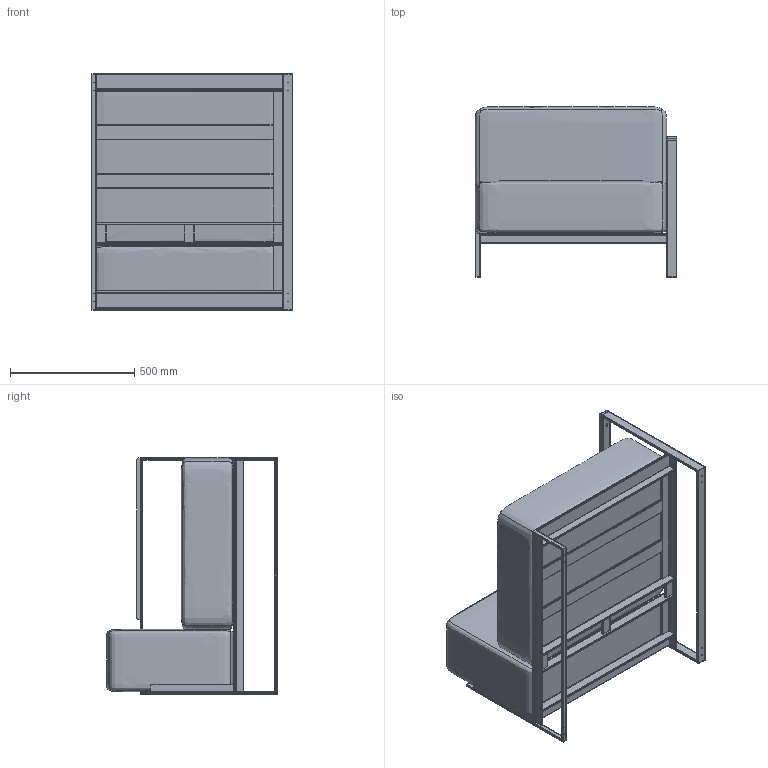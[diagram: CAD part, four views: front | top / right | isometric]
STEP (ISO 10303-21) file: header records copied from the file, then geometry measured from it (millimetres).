
FILE_DESCRIPTION(/* description */ (''),/* implementation_level */ '2;1');
FILE_NAME(/* name */ 'C:\Vault_WF\Designs\RF\Step\Moore Right.stp',/* time_stamp */ '2021-06-28T08:46:39+02:00',/* author */ ('Röshults'),/* organization */ (''),/* preprocessor_version */ 'ST-DEVELOPER v18.1',/* originating_system */ 'Autodesk Inventor 2021',/* authorisation */ '');
FILE_SCHEMA (('AUTOMOTIVE_DESIGN { 1 0 10303 214 3 1 1 }'));
Length unit declared in the file: millimetre
Products named in the file (34): Assembly1; 100759-1; 100759-2; 100755; Frame 1583823913769; Skeleton 1583823913770; CSN EN 10305-5 - 20 x 10 x 1,5  - 950; CSN EN 10305-5 - 20 x 10 x 1,5  - 175; CSN EN 10305-5 - 20 x 10 x 1,5  - 940; CSN EN 10305-5 - 20 x 10 x 1,5  - 548,5; CSN EN 10305-5 - 30 x 10 x 1,5  - 930; CSN EN 10305-5 - 30 x 10 x 1,5  - 333; CSN EN 10305-5 - 40 x 10 x 1,5  - 950; CSN EN 10305-5 - 40 x 10 x 1,5  - 550; CSN EN 10305-5 - 40 x 10 x 1,5  - 940; CSN EN 10305-5 - 40 x 10 x 1,5  - 550_1; CSN EN 10305-5 - 40 x 10 x 1,5  - 790; CSN EN 10305-5 - 40 x 10 x 1,5  - 930; CSN EN 10305-5 - 40 x 10 x 1,5  - 526; CSN EN 10305-5 - 40 x 10 x 1,5  - 750; CSN EN 10305-5 - 40 x 10 x 1,5  - 750_1; CSN EN 10305-5 - 40 x 10 x 1,5  - 750_2; CSN EN 10305-5 - 40 x 10 x 1,5  - 750_3; CSN EN 10305-5 - 40 x 10 x 1,5  - 72; CSN EN 10305-5 - 40 x 10 x 1,5  - 72_1; CSN EN 10305-5 - 40 x 10 x 1,5  - 72_2; CSN EN 10305-5 - 40 x 10 x 1,5  - 182; CSN EN 10305-5 - 60 x 10 x 1,5  - 750; CSN EN 10305-5 - 60 x 10 x 1,5  - 710; CSN EN 10305-5 - 60 x 10 x 1,5  - 710_1; CSN EN 10305-5 - 60 x 10 x 1,5  - 750_1; End Cap 20x10; End Cap 30x10; 100527
Assembly tree (33 placements, depth 4):
  Assembly1
    100759-1
    100759-2
    100755
      Frame 1583823913769
        Skeleton 1583823913770
        CSN EN 10305-5 - 20 x 10 x 1,5  - 950
        CSN EN 10305-5 - 20 x 10 x 1,5  - 175
        CSN EN 10305-5 - 20 x 10 x 1,5  - 940
        CSN EN 10305-5 - 20 x 10 x 1,5  - 548,5
        CSN EN 10305-5 - 30 x 10 x 1,5  - 930
        CSN EN 10305-5 - 30 x 10 x 1,5  - 333
        CSN EN 10305-5 - 40 x 10 x 1,5  - 950
        CSN EN 10305-5 - 40 x 10 x 1,5  - 550
        CSN EN 10305-5 - 40 x 10 x 1,5  - 940
        CSN EN 10305-5 - 40 x 10 x 1,5  - 550_1
        CSN EN 10305-5 - 40 x 10 x 1,5  - 790
        CSN EN 10305-5 - 40 x 10 x 1,5  - 930
        CSN EN 10305-5 - 40 x 10 x 1,5  - 526
        CSN EN 10305-5 - 40 x 10 x 1,5  - 750
        CSN EN 10305-5 - 40 x 10 x 1,5  - 750_1
        CSN EN 10305-5 - 40 x 10 x 1,5  - 750_2
        CSN EN 10305-5 - 40 x 10 x 1,5  - 750_3
        CSN EN 10305-5 - 40 x 10 x 1,5  - 72
        CSN EN 10305-5 - 40 x 10 x 1,5  - 72_1
        CSN EN 10305-5 - 40 x 10 x 1,5  - 72_2
        CSN EN 10305-5 - 40 x 10 x 1,5  - 182
        CSN EN 10305-5 - 60 x 10 x 1,5  - 750
        CSN EN 10305-5 - 60 x 10 x 1,5  - 710
        CSN EN 10305-5 - 60 x 10 x 1,5  - 710_1
        CSN EN 10305-5 - 60 x 10 x 1,5  - 750_1
      End Cap 20x10
      End Cap 30x10
      100527
Bounding box: 810.81 x 686.12 x 950 mm (x, y, z)
Volume: 208748336.3 mm3; surface area: 5781471.4 mm2
Topology: 30 solids, 30 shells, 520 faces, 1369 edges, 909 vertices
Faces by surface type: plane 268, cylinder 233, bspline 12, torus 4, cone 3
Full cylindrical faces by diameter (mm): 2.5 x3, 3.242 x8, 5 x3, 10 x3
Entity records: 22238 total; most frequent: CARTESIAN_POINT 7614, DIRECTION 2962, ORIENTED_EDGE 2732, EDGE_CURVE 1366, AXIS2_PLACEMENT_3D 1045, VERTEX_POINT 909, LINE 872, VECTOR 872
